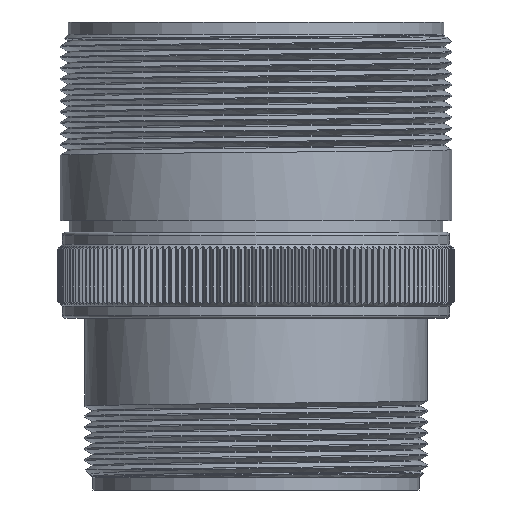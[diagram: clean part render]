
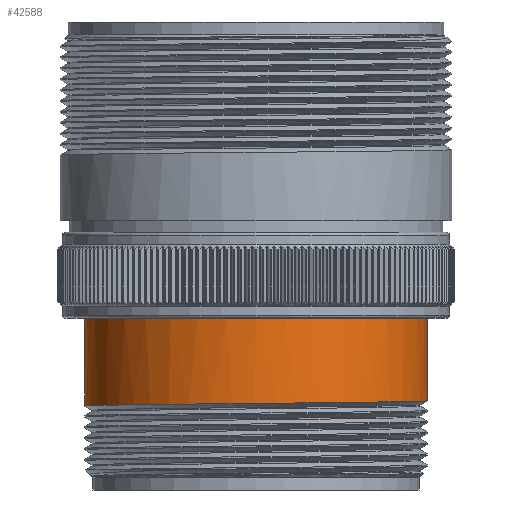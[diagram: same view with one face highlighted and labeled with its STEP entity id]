
A CAD part, front view. The second image highlights one B-rep face of the part: STEP entity #42588.
In plain terms, the highlighted cylindrical face has radius 22.18 mm (diameter 44.36 mm), a partial arc.
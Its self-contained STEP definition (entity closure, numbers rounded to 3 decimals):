
#1330 = DIRECTION ( 'NONE',  ( 1., 0., 0. ) ) ;
#1762 = ORIENTED_EDGE ( 'NONE', *, *, #7747, .F. ) ;
#1849 = ORIENTED_EDGE ( 'NONE', *, *, #52380, .F. ) ;
#3777 = AXIS2_PLACEMENT_3D ( 'NONE', #45755, #40203, #62393 ) ;
#7747 = EDGE_CURVE ( 'NONE', #40122, #64182, #36582, .T. ) ;
#7788 = AXIS2_PLACEMENT_3D ( 'NONE', #68033, #34641, #1330 ) ;
#10109 =( BOUNDED_CURVE ( )  B_SPLINE_CURVE ( 2, ( #36574, #58711, #14410, #53342, #19959, #58953, #25594, #64562, #31175 ),
 .UNSPECIFIED., .F., .F. ) 
 B_SPLINE_CURVE_WITH_KNOTS ( ( 3, 2, 2, 2, 3 ),
 ( 0.906, 0.917, 0.938, 0.958, 0.969 ),
 .UNSPECIFIED. ) 
 CURVE ( )  GEOMETRIC_REPRESENTATION_ITEM ( )  RATIONAL_B_SPLINE_CURVE ( ( 0.933, 0.933, 1., 0.866, 1., 0.866, 1., 0.933, 0.933 ) ) 
 REPRESENTATION_ITEM ( '' )  );
#13753 = EDGE_CURVE ( 'NONE', #30399, #60700, #71861, .T. ) ;
#14410 = CARTESIAN_POINT ( 'NONE',  ( -19.208, -11.09, -49.588 ) ) ;
#14989 = CARTESIAN_POINT ( 'NONE',  ( -22.18, 0., -27.22 ) ) ;
#19959 = CARTESIAN_POINT ( 'NONE',  ( 0., -22.18, -49.352 ) ) ;
#25594 = CARTESIAN_POINT ( 'NONE',  ( 19.208, -11.09, -49.117 ) ) ;
#27037 = EDGE_LOOP ( 'NONE', ( #1762, #39385, #33296, #1849 ) ) ;
#29943 = CARTESIAN_POINT ( 'NONE',  ( -22.18, 0., -49.705 ) ) ;
#30399 = VERTEX_POINT ( 'NONE', #49641 ) ;
#31175 = CARTESIAN_POINT ( 'NONE',  ( 22.18, 0., -49. ) ) ;
#33258 = DIRECTION ( 'NONE',  ( 0., 0., 1. ) ) ;
#33296 = ORIENTED_EDGE ( 'NONE', *, *, #13753, .T. ) ;
#34641 = DIRECTION ( 'NONE',  ( 0., 0., 1. ) ) ;
#36574 = CARTESIAN_POINT ( 'NONE',  ( -22.18, 0., -49.705 ) ) ;
#36582 = LINE ( 'NONE', #14989, #60941 ) ;
#36900 = EDGE_CURVE ( 'NONE', #40122, #30399, #10109, .T. ) ;
#38003 = CYLINDRICAL_SURFACE ( 'NONE', #3777, 22.18 ) ;
#39385 = ORIENTED_EDGE ( 'NONE', *, *, #36900, .T. ) ;
#40122 = VERTEX_POINT ( 'NONE', #29943 ) ;
#40203 = DIRECTION ( 'NONE',  ( 0., 0., 1. ) ) ;
#42588 = ADVANCED_FACE ( 'NONE', ( #67644 ), #38003, .T. ) ;
#44431 = CARTESIAN_POINT ( 'NONE',  ( 22.18, 0., -27.22 ) ) ;
#45755 = CARTESIAN_POINT ( 'NONE',  ( 0., 0., -27.22 ) ) ;
#49641 = CARTESIAN_POINT ( 'NONE',  ( 22.18, 0., -49. ) ) ;
#51656 = CIRCLE ( 'NONE', #7788, 22.18 ) ;
#52380 = EDGE_CURVE ( 'NONE', #64182, #60700, #51656, .T. ) ;
#53342 = CARTESIAN_POINT ( 'NONE',  ( -12.806, -22.18, -49.47 ) ) ;
#58711 = CARTESIAN_POINT ( 'NONE',  ( -22.18, -5.943, -49.642 ) ) ;
#58953 = CARTESIAN_POINT ( 'NONE',  ( 12.806, -22.18, -49.235 ) ) ;
#59543 = DIRECTION ( 'NONE',  ( 0., 0., 1. ) ) ;
#60700 = VERTEX_POINT ( 'NONE', #64721 ) ;
#60941 = VECTOR ( 'NONE', #59543, 1000. ) ;
#62316 = VECTOR ( 'NONE', #33258, 1000. ) ;
#62393 = DIRECTION ( 'NONE',  ( 1., 0., 0. ) ) ;
#64182 = VERTEX_POINT ( 'NONE', #68316 ) ;
#64562 = CARTESIAN_POINT ( 'NONE',  ( 22.18, -5.943, -49.063 ) ) ;
#64721 = CARTESIAN_POINT ( 'NONE',  ( 22.18, 0., -38.33 ) ) ;
#67644 = FACE_OUTER_BOUND ( 'NONE', #27037, .T. ) ;
#68033 = CARTESIAN_POINT ( 'NONE',  ( 0., 0., -38.33 ) ) ;
#68316 = CARTESIAN_POINT ( 'NONE',  ( -22.18, 0., -38.33 ) ) ;
#71861 = LINE ( 'NONE', #44431, #62316 ) ;
